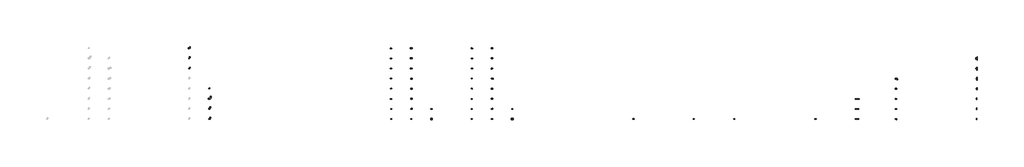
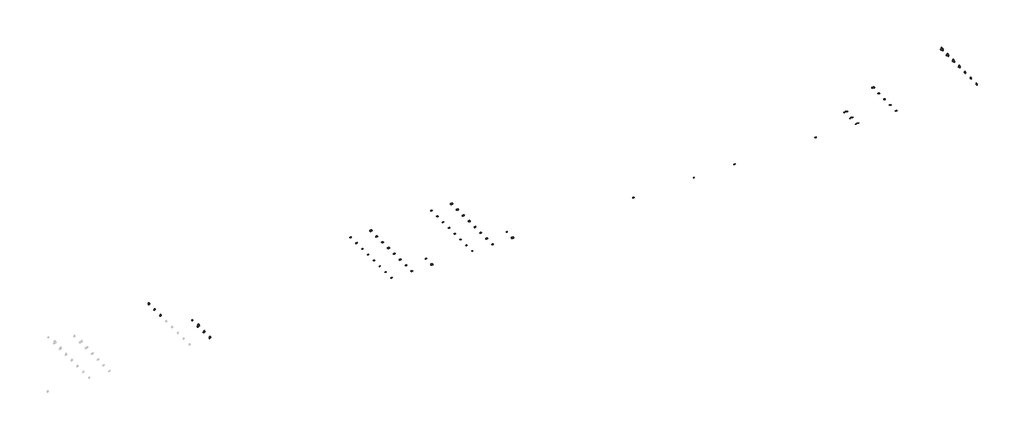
# One storey, part 2 of 2: 62 pipe fittings.
"""IFC4 building model written with IfcOpenShell, lengths in millimetres."""

from ifc_helpers import new_model, si_unit, origin, place, context, project, spatial, transform, mapped, element, save
from components import pipe_fitting_a9f968cd, pipe_fitting_88be18e5, pipe_fitting_340ce223, pipe_fitting_a0121306, pipe_fitting_bba7c7e7, pipe_fitting_329b4943, pipe_fitting_09a4cd9c, pipe_fitting_bbb16e40, pipe_fitting_92516d4c, pipe_fitting_d2552fca, pipe_fitting_249d278d, pipe_fitting_00034e98, pipe_fitting_59623fdd, pipe_fitting_cd871b9a, pipe_fitting_1fefab08, pipe_fitting_cae4833f, pipe_fitting_acd5b14f, pipe_fitting_d9377fef, pipe_fitting_3e197c7a, pipe_fitting_d7e706d9, pipe_fitting_7de03283, pipe_fitting_81e75a1a, pipe_fitting_73b8666e, pipe_fitting_bc462015, pipe_fitting_102a336c, pipe_fitting_0c11c471, pipe_fitting_3cfd12af, pipe_fitting_438a40b4, pipe_fitting_68494769, pipe_fitting_61d1deae, pipe_fitting_c1bab750, pipe_fitting_c08372ad, pipe_fitting_e8b9939f, pipe_fitting_69dbfc6c, pipe_fitting_9e277bd1, pipe_fitting_a1b1b950, pipe_fitting_e93fd339, pipe_fitting_64316f65, pipe_fitting_e44a3966, pipe_fitting_a3a97a90, pipe_fitting_d57d5833, pipe_fitting_52b1e9ff, pipe_fitting_ca3b730a, pipe_fitting_668c9f82, pipe_fitting_a0752ca9, pipe_fitting_f1c8faff, pipe_fitting_c408c730, pipe_fitting_48b994d6, pipe_fitting_ef480b17, pipe_fitting_594c53a3, pipe_fitting_ccd35f00, pipe_fitting_0e8537e7, pipe_fitting_0ba09045, pipe_fitting_24fe26c1, pipe_fitting_2ce4cc89, pipe_fitting_684a95cb, pipe_fitting_c8741562, pipe_fitting_ea9a7392, pipe_fitting_59298a50, pipe_fitting_cfeb25f1, pipe_fitting_411b170e

model = new_model("IFC4")

# Units and contexts
model_context = context("Model", 3, world=origin())
ifc_project = project(units=[si_unit("LENGTHUNIT", "METRE", prefix="MILLI")], contexts=[model_context])

# Site, building, storey
site = spatial("IfcSite", under=ifc_project)
building = spatial("IfcBuilding", under=site)
storey = spatial("IfcBuildingStorey", under=building, Name="Уровень 1", Elevation=0.0)

# Pipe fittings
placement = place(None, origin())
pipe_fitting_shape = pipe_fitting_a9f968cd(model_context)
element("IfcPipeFitting", 1, ObjectType="РЕХАУ_Пресс Заглушка : Заглушка", at=placement, inside=storey, context=model_context, shape_type="MappedRepresentation", body=[
    mapped(pipe_fitting_shape, transform((44000.0, 0.0, 0.0), x_axis=(1.0, 0.0, 0.0), y_axis=(0.0, 1.0, 0.0), z_axis=(0.0, 0.0, 1.0))),
])
pipe_fitting_2_shape = pipe_fitting_88be18e5(model_context)
element("IfcPipeFitting", 2, ObjectType="РЕХАУ_Пресс Муфта НР : ЗАГРУЗИТЕ ТИПОРАЗМЕРЫ ЧЕРЕЗ ВКЛАДКУ «ВСТАВИТЬ» → ЗАГРУЗИТЬ СЕМЕЙСТВО", at=placement, inside=storey, context=model_context, shape_type="MappedRepresentation", body=[
    mapped(pipe_fitting_2_shape, transform((31000.0, 500.0, 0.0), x_axis=(1.0, 0.0, 0.0), y_axis=(0.0, 1.0, 0.0), z_axis=(0.0, 0.0, 1.0))),
])
pipe_fitting_3_shape = pipe_fitting_340ce223(model_context)
element("IfcPipeFitting", 3, ObjectType="РЕХАУ_Пресс Муфта переходная : Муфта переходная", at=placement, inside=storey, context=model_context, shape_type="MappedRepresentation", body=[
    mapped(pipe_fitting_3_shape, transform((46000.0, 0.0, 0.0), x_axis=(1.0, 0.0, 0.0), y_axis=(0.0, 1.0, 0.0), z_axis=(0.0, 0.0, 1.0))),
])
pipe_fitting_4_shape = pipe_fitting_a0121306(model_context)
element("IfcPipeFitting", 4, ObjectType="РЕХАУ_Пресс Муфта с накидной гайкой и ниппелем НР : ЗАГРУЗИТЕ ТИПОРАЗМЕРЫ ЧЕРЕЗ ВКЛАДКУ «ВСТАВИТЬ» → ЗАГРУЗИТЬ СЕМЕЙСТВО", at=placement, inside=storey, context=model_context, shape_type="MappedRepresentation", body=[
    mapped(pipe_fitting_4_shape, transform((50000.0, 0.0, 0.0), x_axis=(1.0, 0.0, 0.0), y_axis=(0.0, 1.0, 0.0), z_axis=(0.0, 0.0, 1.0))),
])
pipe_fitting_5_shape = pipe_fitting_bba7c7e7(model_context)
element("IfcPipeFitting", 5, ObjectType="РЕХАУ_Пресс Муфта с накидной гайкой : ЗАГРУЗИТЕ ТИПОРАЗМЕРЫ ЧЕРЕЗ ВКЛАДКУ «ВСТАВИТЬ» → ЗАГРУЗИТЬ СЕМЕЙСТВО", at=placement, inside=storey, context=model_context, shape_type="MappedRepresentation", body=[
    mapped(pipe_fitting_5_shape, transform((35000.0, 500.0, 0.0), x_axis=(1.0, 0.0, 0.0), y_axis=(0.0, 1.0, 0.0), z_axis=(0.0, 0.0, 1.0))),
])
pipe_fitting_6_shape = pipe_fitting_329b4943(model_context)
element("IfcPipeFitting", 6, ObjectType="РЕХАУ_Пресс Обвод : Обвод 15", at=placement, inside=storey, context=model_context, shape_type="MappedRepresentation", body=[
    mapped(pipe_fitting_6_shape, transform((52000.0, 0.0, 0.0), x_axis=(1.0, 0.0, 0.0), y_axis=(0.0, 1.0, 0.0), z_axis=(0.0, 0.0, 1.0))),
])
pipe_fitting_7_shape = pipe_fitting_09a4cd9c(model_context)
element("IfcPipeFitting", 7, ObjectType="РЕХАУ_Пресс Обвод : Обвод 18", at=placement, inside=storey, context=model_context, shape_type="MappedRepresentation", body=[
    mapped(pipe_fitting_7_shape, transform((52000.0, 500.0, 0.0), x_axis=(1.0, 0.0, 0.0), y_axis=(0.0, 1.0, 0.0), z_axis=(0.0, 0.0, 1.0))),
])
pipe_fitting_8_shape = pipe_fitting_bbb16e40(model_context)
element("IfcPipeFitting", 8, ObjectType="РЕХАУ_Пресс Обвод : Обвод 22", at=placement, inside=storey, context=model_context, shape_type="MappedRepresentation", body=[
    mapped(pipe_fitting_8_shape, transform((52000.0, 1000.0, 0.0), x_axis=(1.0, 0.0, 0.0), y_axis=(0.0, 1.0, 0.0), z_axis=(0.0, 0.0, 1.0))),
])
pipe_fitting_9_shape = pipe_fitting_92516d4c(model_context)
element("IfcPipeFitting", 9, ObjectType="РЕХАУ_Пресс Отвод НР : ЗАГРУЗИТЕ ТИПОРАЗМЕРЫ ЧЕРЕЗ «ВСТАВИТЬ» → ЗАГРУЗИТЬ СЕМЕЙСТВО", at=placement, inside=storey, context=model_context, shape_type="MappedRepresentation", body=[
    mapped(pipe_fitting_9_shape, transform((20000.0, 1500.0, 0.0), x_axis=(1.0, 0.0, 0.0), y_axis=(0.0, 1.0, 0.0), z_axis=(0.0, 0.0, 1.0))),
])
pipe_fitting_10_shape = pipe_fitting_d2552fca(model_context)
element("IfcPipeFitting", 10, ObjectType="РЕХАУ_Пресс Угольник ВР : 15 x Rp 1/2\"", at=placement, inside=storey, context=model_context, shape_type="MappedRepresentation", body=[
    mapped(pipe_fitting_10_shape, transform((54000.0, 0.0, 0.0), x_axis=(1.0, 0.0, 0.0), y_axis=(0.0, 1.0, 0.0), z_axis=(0.0, 0.0, 1.0))),
])
pipe_fitting_11_shape = pipe_fitting_249d278d(model_context)
element("IfcPipeFitting", 11, ObjectType="РЕХАУ_Пресс Угольник ВР : 18 x Rp 1/2\"", at=placement, inside=storey, context=model_context, shape_type="MappedRepresentation", body=[
    mapped(pipe_fitting_11_shape, transform((54000.0, 500.0, 0.0), x_axis=(1.0, 0.0, 0.0), y_axis=(0.0, 1.0, 0.0), z_axis=(0.0, 0.0, 1.0))),
])
pipe_fitting_12_shape = pipe_fitting_00034e98(model_context)
element("IfcPipeFitting", 12, ObjectType="РЕХАУ_Пресс Угольник ВР : 22 x Rp 3/4\"", at=placement, inside=storey, context=model_context, shape_type="MappedRepresentation", body=[
    mapped(pipe_fitting_12_shape, transform((54000.0, 1000.0, 0.0), x_axis=(1.0, 0.0, 0.0), y_axis=(0.0, 1.0, 0.0), z_axis=(0.0, 0.0, 1.0))),
])
pipe_fitting_13_shape = pipe_fitting_59623fdd(model_context)
element("IfcPipeFitting", 13, ObjectType="РЕХАУ_Пресс Угольник ВР : 28 x Rp 1\"", at=placement, inside=storey, context=model_context, shape_type="MappedRepresentation", body=[
    mapped(pipe_fitting_13_shape, transform((54000.0, 1500.0, 0.0), x_axis=(1.0, 0.0, 0.0), y_axis=(0.0, 1.0, 0.0), z_axis=(0.0, 0.0, 1.0))),
])
pipe_fitting_14_shape = pipe_fitting_cd871b9a(model_context)
element("IfcPipeFitting", 14, ObjectType="РЕХАУ_Пресс Угольник ВР : 35 x Rp 1 1/4\"", at=placement, inside=storey, context=model_context, shape_type="MappedRepresentation", body=[
    mapped(pipe_fitting_14_shape, transform((54000.0, 2000.0, 0.0), x_axis=(1.0, 0.0, 0.0), y_axis=(0.0, 1.0, 0.0), z_axis=(0.0, 0.0, 1.0))),
])
pipe_fitting_15_shape = pipe_fitting_1fefab08(model_context)
element("IfcPipeFitting", 15, ObjectType="РЕХАУ_Пресс Фланец : 18 x DN15", at=placement, inside=storey, context=model_context, shape_type="MappedRepresentation", body=[
    mapped(pipe_fitting_15_shape, transform((58000.0, 0.0, 0.0), x_axis=(1.0, 0.0, 0.0), y_axis=(0.0, 1.0, 0.0), z_axis=(0.0, 0.0, 1.0))),
])
pipe_fitting_16_shape = pipe_fitting_cae4833f(model_context)
element("IfcPipeFitting", 16, ObjectType="РЕХАУ_Пресс Фланец : 15 x DN15", at=placement, inside=storey, context=model_context, shape_type="MappedRepresentation", body=[
    mapped(pipe_fitting_16_shape, transform((58000.0, 500.0, 0.0), x_axis=(1.0, 0.0, 0.0), y_axis=(0.0, 1.0, 0.0), z_axis=(0.0, 0.0, 1.0))),
])
pipe_fitting_17_shape = pipe_fitting_acd5b14f(model_context)
element("IfcPipeFitting", 17, ObjectType="РЕХАУ_Пресс Фланец : 22 x DN20", at=placement, inside=storey, context=model_context, shape_type="MappedRepresentation", body=[
    mapped(pipe_fitting_17_shape, transform((58000.0, 1000.0, 0.0), x_axis=(1.0, 0.0, 0.0), y_axis=(0.0, 1.0, 0.0), z_axis=(0.0, 0.0, 1.0))),
])
pipe_fitting_18_shape = pipe_fitting_d9377fef(model_context)
element("IfcPipeFitting", 18, ObjectType="РЕХАУ_Пресс Фланец : 28 x DN25", at=placement, inside=storey, context=model_context, shape_type="MappedRepresentation", body=[
    mapped(pipe_fitting_18_shape, transform((58000.0, 1500.0, 0.0), x_axis=(1.0, 0.0, 0.0), y_axis=(0.0, 1.0, 0.0), z_axis=(0.0, 0.0, 1.0))),
])
pipe_fitting_19_shape = pipe_fitting_3e197c7a(model_context)
element("IfcPipeFitting", 19, ObjectType="РЕХАУ_Пресс Фланец : 35 x DN32", at=placement, inside=storey, context=model_context, shape_type="MappedRepresentation", body=[
    mapped(pipe_fitting_19_shape, transform((58000.0, 2000.0, 0.0), x_axis=(1.0, 0.0, 0.0), y_axis=(0.0, 1.0, 0.0), z_axis=(0.0, 0.0, 1.0))),
])
pipe_fitting_20_shape = pipe_fitting_d7e706d9(model_context)
element("IfcPipeFitting", 20, ObjectType="РЕХАУ_Пресс Фланец : 42 x DN40", at=placement, inside=storey, context=model_context, shape_type="MappedRepresentation", body=[
    mapped(pipe_fitting_20_shape, transform((58000.0, 2500.0, 0.0), x_axis=(1.0, 0.0, 0.0), y_axis=(0.0, 1.0, 0.0), z_axis=(0.0, 0.0, 1.0))),
])
pipe_fitting_21_shape = pipe_fitting_7de03283(model_context)
element("IfcPipeFitting", 21, ObjectType="РЕХАУ_Пресс Фланец : 54 x DN50", at=placement, inside=storey, context=model_context, shape_type="MappedRepresentation", body=[
    mapped(pipe_fitting_21_shape, transform((58000.0, 3000.0, 0.0), x_axis=(1.0, 0.0, 0.0), y_axis=(0.0, 1.0, 0.0), z_axis=(0.0, 0.0, 1.0))),
])
pipe_fitting_22_shape = pipe_fitting_81e75a1a(model_context)
element("IfcPipeFitting", 22, ObjectType="РЕХАУ_Пресс Отвод НР : 28 x R 3/4\"", at=placement, inside=storey, context=model_context, shape_type="MappedRepresentation", body=[
    mapped(pipe_fitting_22_shape, transform((19000.0, 2500.0, 0.0), x_axis=(1.0, 0.0, 0.0), y_axis=(0.0, 1.0, 0.0), z_axis=(0.0, 0.0, 1.0))),
])
pipe_fitting_23_shape = pipe_fitting_73b8666e(model_context)
element("IfcPipeFitting", 23, ObjectType="РЕХАУ_Пресс Отвод НР : 28 x R 1\"", at=placement, inside=storey, context=model_context, shape_type="MappedRepresentation", body=[
    mapped(pipe_fitting_23_shape, transform((19000.0, 3000.0, 0.0), x_axis=(1.0, 0.0, 0.0), y_axis=(0.0, 1.0, 0.0), z_axis=(0.0, 0.0, 1.0))),
])
pipe_fitting_24_shape = pipe_fitting_bc462015(model_context)
element("IfcPipeFitting", 24, ObjectType="РЕХАУ_Пресс Отвод НР : 35 x R 1\"", at=placement, inside=storey, context=model_context, shape_type="MappedRepresentation", body=[
    mapped(pipe_fitting_24_shape, transform((19000.0, 3500.0, 0.0), x_axis=(1.0, 0.0, 0.0), y_axis=(0.0, 1.0, 0.0), z_axis=(0.0, 0.0, 1.0))),
])
pipe_fitting_25_shape = pipe_fitting_102a336c(model_context)
element("IfcPipeFitting", 25, ObjectType="РЕХАУ_Пресс Отвод НР : 35 x R 1 1/4\"", at=placement, inside=storey, context=model_context, shape_type="MappedRepresentation", body=[
    mapped(pipe_fitting_25_shape, transform((20000.0, 0.0, 0.0), x_axis=(1.0, 0.0, 0.0), y_axis=(0.0, 1.0, 0.0), z_axis=(0.0, 0.0, 1.0))),
])
pipe_fitting_26_shape = pipe_fitting_0c11c471(model_context)
element("IfcPipeFitting", 26, ObjectType="РЕХАУ_Пресс Отвод НР : 42 x R 1 1/2\"", at=placement, inside=storey, context=model_context, shape_type="MappedRepresentation", body=[
    mapped(pipe_fitting_26_shape, transform((20000.0, 500.0, 0.0), x_axis=(1.0, 0.0, 0.0), y_axis=(0.0, 1.0, 0.0), z_axis=(0.0, 0.0, 1.0))),
])
pipe_fitting_27_shape = pipe_fitting_3cfd12af(model_context)
element("IfcPipeFitting", 27, ObjectType="РЕХАУ_Пресс Отвод НР : 54 x R 2\"", at=placement, inside=storey, context=model_context, shape_type="MappedRepresentation", body=[
    mapped(pipe_fitting_27_shape, transform((20000.0, 1000.0, 0.0), x_axis=(1.0, 0.0, 0.0), y_axis=(0.0, 1.0, 0.0), z_axis=(0.0, 0.0, 1.0))),
])
element("IfcPipeFitting", 28, ObjectType="РЕХАУ_Пресс Муфта НР : 15 x R 1/2\"", at=placement, inside=storey, context=model_context, shape_type="MappedRepresentation", body=[
    mapped(pipe_fitting_2_shape, transform((29000.0, 0.0, 0.0), x_axis=(1.0, 0.0, 0.0), y_axis=(0.0, 1.0, 0.0), z_axis=(0.0, 0.0, 1.0))),
])
pipe_fitting_28_shape = pipe_fitting_438a40b4(model_context)
element("IfcPipeFitting", 29, ObjectType="РЕХАУ_Пресс Муфта НР : 15 x R 3/4\"", at=placement, inside=storey, context=model_context, shape_type="MappedRepresentation", body=[
    mapped(pipe_fitting_28_shape, transform((29000.0, 500.0, 0.0), x_axis=(1.0, 0.0, 0.0), y_axis=(0.0, 1.0, 0.0), z_axis=(0.0, 0.0, 1.0))),
])
pipe_fitting_29_shape = pipe_fitting_68494769(model_context)
element("IfcPipeFitting", 30, ObjectType="РЕХАУ_Пресс Муфта НР : 18 x R 1/2\"", at=placement, inside=storey, context=model_context, shape_type="MappedRepresentation", body=[
    mapped(pipe_fitting_29_shape, transform((29000.0, 1000.0, 0.0), x_axis=(1.0, 0.0, 0.0), y_axis=(0.0, 1.0, 0.0), z_axis=(0.0, 0.0, 1.0))),
])
pipe_fitting_30_shape = pipe_fitting_61d1deae(model_context)
element("IfcPipeFitting", 31, ObjectType="РЕХАУ_Пресс Муфта НР : 18 x R 3/4\"", at=placement, inside=storey, context=model_context, shape_type="MappedRepresentation", body=[
    mapped(pipe_fitting_30_shape, transform((29000.0, 1500.0, 0.0), x_axis=(1.0, 0.0, 0.0), y_axis=(0.0, 1.0, 0.0), z_axis=(0.0, 0.0, 1.0))),
])
pipe_fitting_31_shape = pipe_fitting_c1bab750(model_context)
element("IfcPipeFitting", 32, ObjectType="РЕХАУ_Пресс Муфта НР : 22 x R 1/2\"", at=placement, inside=storey, context=model_context, shape_type="MappedRepresentation", body=[
    mapped(pipe_fitting_31_shape, transform((29000.0, 2000.0, 0.0), x_axis=(1.0, 0.0, 0.0), y_axis=(0.0, 1.0, 0.0), z_axis=(0.0, 0.0, 1.0))),
])
pipe_fitting_32_shape = pipe_fitting_c08372ad(model_context)
element("IfcPipeFitting", 33, ObjectType="РЕХАУ_Пресс Муфта НР : 22 x R 3/4\"", at=placement, inside=storey, context=model_context, shape_type="MappedRepresentation", body=[
    mapped(pipe_fitting_32_shape, transform((29000.0, 2500.0, 0.0), x_axis=(1.0, 0.0, 0.0), y_axis=(0.0, 1.0, 0.0), z_axis=(0.0, 0.0, 1.0))),
])
pipe_fitting_33_shape = pipe_fitting_e8b9939f(model_context)
element("IfcPipeFitting", 34, ObjectType="РЕХАУ_Пресс Муфта НР : 22 x R 1\"", at=placement, inside=storey, context=model_context, shape_type="MappedRepresentation", body=[
    mapped(pipe_fitting_33_shape, transform((29000.0, 3000.0, 0.0), x_axis=(1.0, 0.0, 0.0), y_axis=(0.0, 1.0, 0.0), z_axis=(0.0, 0.0, 1.0))),
])
pipe_fitting_34_shape = pipe_fitting_69dbfc6c(model_context)
element("IfcPipeFitting", 35, ObjectType="РЕХАУ_Пресс Муфта НР : 28 x R 3/4\"", at=placement, inside=storey, context=model_context, shape_type="MappedRepresentation", body=[
    mapped(pipe_fitting_34_shape, transform((29000.0, 3500.0, 0.0), x_axis=(1.0, 0.0, 0.0), y_axis=(0.0, 1.0, 0.0), z_axis=(0.0, 0.0, 1.0))),
])
pipe_fitting_35_shape = pipe_fitting_9e277bd1(model_context)
element("IfcPipeFitting", 36, ObjectType="РЕХАУ_Пресс Муфта НР : 28 x R 1\"", at=placement, inside=storey, context=model_context, shape_type="MappedRepresentation", body=[
    mapped(pipe_fitting_35_shape, transform((30000.0, 0.0, 0.0), x_axis=(1.0, 0.0, 0.0), y_axis=(0.0, 1.0, 0.0), z_axis=(0.0, 0.0, 1.0))),
])
pipe_fitting_36_shape = pipe_fitting_a1b1b950(model_context)
element("IfcPipeFitting", 37, ObjectType="РЕХАУ_Пресс Муфта НР : 28 x R 1 1/4\"", at=placement, inside=storey, context=model_context, shape_type="MappedRepresentation", body=[
    mapped(pipe_fitting_36_shape, transform((30000.0, 500.0, 0.0), x_axis=(1.0, 0.0, 0.0), y_axis=(0.0, 1.0, 0.0), z_axis=(0.0, 0.0, 1.0))),
])
pipe_fitting_37_shape = pipe_fitting_e93fd339(model_context)
element("IfcPipeFitting", 38, ObjectType="РЕХАУ_Пресс Муфта НР : 35 x R 1\"", at=placement, inside=storey, context=model_context, shape_type="MappedRepresentation", body=[
    mapped(pipe_fitting_37_shape, transform((30000.0, 1000.0, 0.0), x_axis=(1.0, 0.0, 0.0), y_axis=(0.0, 1.0, 0.0), z_axis=(0.0, 0.0, 1.0))),
])
pipe_fitting_38_shape = pipe_fitting_64316f65(model_context)
element("IfcPipeFitting", 39, ObjectType="РЕХАУ_Пресс Муфта НР : 35 x R 1 1/4\"", at=placement, inside=storey, context=model_context, shape_type="MappedRepresentation", body=[
    mapped(pipe_fitting_38_shape, transform((30000.0, 1500.0, 0.0), x_axis=(1.0, 0.0, 0.0), y_axis=(0.0, 1.0, 0.0), z_axis=(0.0, 0.0, 1.0))),
])
pipe_fitting_39_shape = pipe_fitting_e44a3966(model_context)
element("IfcPipeFitting", 40, ObjectType="РЕХАУ_Пресс Муфта НР : 35 x R 1 1/2\"", at=placement, inside=storey, context=model_context, shape_type="MappedRepresentation", body=[
    mapped(pipe_fitting_39_shape, transform((30000.0, 2000.0, 0.0), x_axis=(1.0, 0.0, 0.0), y_axis=(0.0, 1.0, 0.0), z_axis=(0.0, 0.0, 1.0))),
])
pipe_fitting_40_shape = pipe_fitting_a3a97a90(model_context)
element("IfcPipeFitting", 41, ObjectType="РЕХАУ_Пресс Муфта НР : 42 x R 1 1/4\"", at=placement, inside=storey, context=model_context, shape_type="MappedRepresentation", body=[
    mapped(pipe_fitting_40_shape, transform((30000.0, 2500.0, 0.0), x_axis=(1.0, 0.0, 0.0), y_axis=(0.0, 1.0, 0.0), z_axis=(0.0, 0.0, 1.0))),
])
pipe_fitting_41_shape = pipe_fitting_d57d5833(model_context)
element("IfcPipeFitting", 42, ObjectType="РЕХАУ_Пресс Муфта НР : 42 x R 1 1/2\"", at=placement, inside=storey, context=model_context, shape_type="MappedRepresentation", body=[
    mapped(pipe_fitting_41_shape, transform((30000.0, 3000.0, 0.0), x_axis=(1.0, 0.0, 0.0), y_axis=(0.0, 1.0, 0.0), z_axis=(0.0, 0.0, 1.0))),
])
pipe_fitting_42_shape = pipe_fitting_52b1e9ff(model_context)
element("IfcPipeFitting", 43, ObjectType="РЕХАУ_Пресс Муфта НР : 54 x R 1 1/2\"", at=placement, inside=storey, context=model_context, shape_type="MappedRepresentation", body=[
    mapped(pipe_fitting_42_shape, transform((30000.0, 3500.0, 0.0), x_axis=(1.0, 0.0, 0.0), y_axis=(0.0, 1.0, 0.0), z_axis=(0.0, 0.0, 1.0))),
])
pipe_fitting_43_shape = pipe_fitting_ca3b730a(model_context)
element("IfcPipeFitting", 44, ObjectType="РЕХАУ_Пресс Муфта НР : 54 x R 2\"", at=placement, inside=storey, context=model_context, shape_type="MappedRepresentation", body=[
    mapped(pipe_fitting_43_shape, transform((31000.0, 0.0, 0.0), x_axis=(1.0, 0.0, 0.0), y_axis=(0.0, 1.0, 0.0), z_axis=(0.0, 0.0, 1.0))),
])
pipe_fitting_44_shape = pipe_fitting_668c9f82(model_context)
element("IfcPipeFitting", 45, ObjectType="РЕХАУ_Пресс Тройник НР : 15 - R 1/2\" - 15", at=placement, inside=storey, context=model_context, shape_type="MappedRepresentation", body=[
    mapped(pipe_fitting_44_shape, transform((41000.0, 0.0, 0.0), x_axis=(1.0, 0.0, 0.0), y_axis=(0.0, 1.0, 0.0), z_axis=(0.0, 0.0, 1.0))),
])
pipe_fitting_45_shape = pipe_fitting_a0752ca9(model_context)
element("IfcPipeFitting", 46, ObjectType="РЕХАУ_Пресс Муфта с накидной гайкой : G 1 1/2\" - 35", at=placement, inside=storey, context=model_context, shape_type="MappedRepresentation", body=[
    mapped(pipe_fitting_45_shape, transform((34000.0, 2000.0, 0.0), x_axis=(1.0, 0.0, 0.0), y_axis=(0.0, 1.0, 0.0), z_axis=(0.0, 0.0, 1.0))),
])
pipe_fitting_46_shape = pipe_fitting_f1c8faff(model_context)
element("IfcPipeFitting", 47, ObjectType="РЕХАУ_Пресс Муфта с накидной гайкой : G 1 1/2\" - 42", at=placement, inside=storey, context=model_context, shape_type="MappedRepresentation", body=[
    mapped(pipe_fitting_46_shape, transform((34000.0, 3000.0, 0.0), x_axis=(1.0, 0.0, 0.0), y_axis=(0.0, 1.0, 0.0), z_axis=(0.0, 0.0, 1.0))),
])
pipe_fitting_47_shape = pipe_fitting_c408c730(model_context)
element("IfcPipeFitting", 48, ObjectType="РЕХАУ_Пресс Муфта с накидной гайкой : G 1 1/2\" - 54", at=placement, inside=storey, context=model_context, shape_type="MappedRepresentation", body=[
    mapped(pipe_fitting_47_shape, transform((34000.0, 3500.0, 0.0), x_axis=(1.0, 0.0, 0.0), y_axis=(0.0, 1.0, 0.0), z_axis=(0.0, 0.0, 1.0))),
])
pipe_fitting_48_shape = pipe_fitting_48b994d6(model_context)
element("IfcPipeFitting", 49, ObjectType="РЕХАУ_Пресс Муфта с накидной гайкой : G 1 1/4\" - 28", at=placement, inside=storey, context=model_context, shape_type="MappedRepresentation", body=[
    mapped(pipe_fitting_48_shape, transform((34000.0, 500.0, 0.0), x_axis=(1.0, 0.0, 0.0), y_axis=(0.0, 1.0, 0.0), z_axis=(0.0, 0.0, 1.0))),
])
pipe_fitting_49_shape = pipe_fitting_ef480b17(model_context)
element("IfcPipeFitting", 50, ObjectType="РЕХАУ_Пресс Муфта с накидной гайкой : G 1 1/4\" - 35", at=placement, inside=storey, context=model_context, shape_type="MappedRepresentation", body=[
    mapped(pipe_fitting_49_shape, transform((34000.0, 1500.0, 0.0), x_axis=(1.0, 0.0, 0.0), y_axis=(0.0, 1.0, 0.0), z_axis=(0.0, 0.0, 1.0))),
])
pipe_fitting_50_shape = pipe_fitting_594c53a3(model_context)
element("IfcPipeFitting", 51, ObjectType="РЕХАУ_Пресс Муфта с накидной гайкой : G 1 1/4\" - 42", at=placement, inside=storey, context=model_context, shape_type="MappedRepresentation", body=[
    mapped(pipe_fitting_50_shape, transform((34000.0, 2500.0, 0.0), x_axis=(1.0, 0.0, 0.0), y_axis=(0.0, 1.0, 0.0), z_axis=(0.0, 0.0, 1.0))),
])
pipe_fitting_51_shape = pipe_fitting_ccd35f00(model_context)
element("IfcPipeFitting", 52, ObjectType="РЕХАУ_Пресс Муфта с накидной гайкой : G 1\" - 22", at=placement, inside=storey, context=model_context, shape_type="MappedRepresentation", body=[
    mapped(pipe_fitting_51_shape, transform((33000.0, 3000.0, 0.0), x_axis=(1.0, 0.0, 0.0), y_axis=(0.0, 1.0, 0.0), z_axis=(0.0, 0.0, 1.0))),
])
pipe_fitting_52_shape = pipe_fitting_0e8537e7(model_context)
element("IfcPipeFitting", 53, ObjectType="РЕХАУ_Пресс Муфта с накидной гайкой : G 1\" - 28", at=placement, inside=storey, context=model_context, shape_type="MappedRepresentation", body=[
    mapped(pipe_fitting_52_shape, transform((34000.0, 0.0, 0.0), x_axis=(1.0, 0.0, 0.0), y_axis=(0.0, 1.0, 0.0), z_axis=(0.0, 0.0, 1.0))),
])
pipe_fitting_53_shape = pipe_fitting_0ba09045(model_context)
element("IfcPipeFitting", 54, ObjectType="РЕХАУ_Пресс Муфта с накидной гайкой : G 1\" - 35", at=placement, inside=storey, context=model_context, shape_type="MappedRepresentation", body=[
    mapped(pipe_fitting_53_shape, transform((34000.0, 1000.0, 0.0), x_axis=(1.0, 0.0, 0.0), y_axis=(0.0, 1.0, 0.0), z_axis=(0.0, 0.0, 1.0))),
])
pipe_fitting_54_shape = pipe_fitting_24fe26c1(model_context)
element("IfcPipeFitting", 55, ObjectType="РЕХАУ_Пресс Муфта с накидной гайкой : G 1/2\" - 15", at=placement, inside=storey, context=model_context, shape_type="MappedRepresentation", body=[
    mapped(pipe_fitting_54_shape, transform((33000.0, 0.0, 0.0), x_axis=(1.0, 0.0, 0.0), y_axis=(0.0, 1.0, 0.0), z_axis=(0.0, 0.0, 1.0))),
])
pipe_fitting_55_shape = pipe_fitting_2ce4cc89(model_context)
element("IfcPipeFitting", 56, ObjectType="РЕХАУ_Пресс Муфта с накидной гайкой : G 1/2\" - 18", at=placement, inside=storey, context=model_context, shape_type="MappedRepresentation", body=[
    mapped(pipe_fitting_55_shape, transform((33000.0, 1000.0, 0.0), x_axis=(1.0, 0.0, 0.0), y_axis=(0.0, 1.0, 0.0), z_axis=(0.0, 0.0, 1.0))),
])
pipe_fitting_56_shape = pipe_fitting_684a95cb(model_context)
element("IfcPipeFitting", 57, ObjectType="РЕХАУ_Пресс Муфта с накидной гайкой : G 1/2\" - 22", at=placement, inside=storey, context=model_context, shape_type="MappedRepresentation", body=[
    mapped(pipe_fitting_56_shape, transform((33000.0, 2000.0, 0.0), x_axis=(1.0, 0.0, 0.0), y_axis=(0.0, 1.0, 0.0), z_axis=(0.0, 0.0, 1.0))),
])
pipe_fitting_57_shape = pipe_fitting_c8741562(model_context)
element("IfcPipeFitting", 58, ObjectType="РЕХАУ_Пресс Муфта с накидной гайкой : G 2\" - 54", at=placement, inside=storey, context=model_context, shape_type="MappedRepresentation", body=[
    mapped(pipe_fitting_57_shape, transform((35000.0, 0.0, 0.0), x_axis=(1.0, 0.0, 0.0), y_axis=(0.0, 1.0, 0.0), z_axis=(0.0, 0.0, 1.0))),
])
pipe_fitting_58_shape = pipe_fitting_ea9a7392(model_context)
element("IfcPipeFitting", 59, ObjectType="РЕХАУ_Пресс Муфта с накидной гайкой : G 3/4\" - 15", at=placement, inside=storey, context=model_context, shape_type="MappedRepresentation", body=[
    mapped(pipe_fitting_58_shape, transform((33000.0, 500.0, 0.0), x_axis=(1.0, 0.0, 0.0), y_axis=(0.0, 1.0, 0.0), z_axis=(0.0, 0.0, 1.0))),
])
pipe_fitting_59_shape = pipe_fitting_59298a50(model_context)
element("IfcPipeFitting", 60, ObjectType="РЕХАУ_Пресс Муфта с накидной гайкой : G 3/4\" - 18", at=placement, inside=storey, context=model_context, shape_type="MappedRepresentation", body=[
    mapped(pipe_fitting_59_shape, transform((33000.0, 1500.0, 0.0), x_axis=(1.0, 0.0, 0.0), y_axis=(0.0, 1.0, 0.0), z_axis=(0.0, 0.0, 1.0))),
])
pipe_fitting_60_shape = pipe_fitting_cfeb25f1(model_context)
element("IfcPipeFitting", 61, ObjectType="РЕХАУ_Пресс Муфта с накидной гайкой : G 3/4\" - 22", at=placement, inside=storey, context=model_context, shape_type="MappedRepresentation", body=[
    mapped(pipe_fitting_60_shape, transform((33000.0, 2500.0, 0.0), x_axis=(1.0, 0.0, 0.0), y_axis=(0.0, 1.0, 0.0), z_axis=(0.0, 0.0, 1.0))),
])
pipe_fitting_61_shape = pipe_fitting_411b170e(model_context)
element("IfcPipeFitting", 62, ObjectType="РЕХАУ_Пресс Муфта с накидной гайкой : G 3/4\" - 28", at=placement, inside=storey, context=model_context, shape_type="MappedRepresentation", body=[
    mapped(pipe_fitting_61_shape, transform((33000.0, 3500.0, 0.0), x_axis=(1.0, 0.0, 0.0), y_axis=(0.0, 1.0, 0.0), z_axis=(0.0, 0.0, 1.0))),
])

save(model, "model.ifc")
